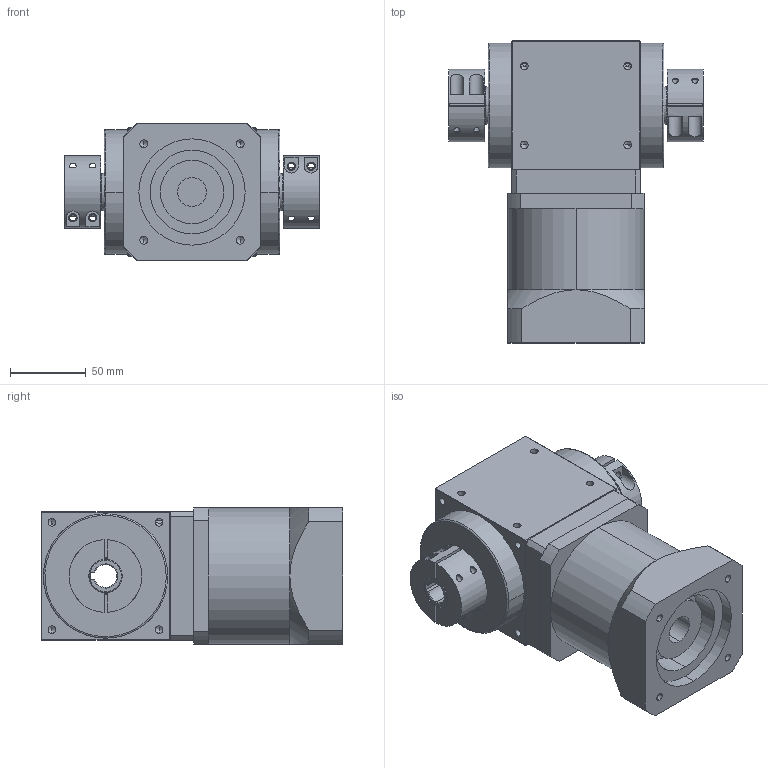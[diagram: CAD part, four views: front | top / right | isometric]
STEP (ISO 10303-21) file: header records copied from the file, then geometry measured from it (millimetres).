
FILE_DESCRIPTION (( 'STEP AP214' ), '1' );
FILE_NAME ('PAW085A-L1-2C-K(3-10) 19-70-90-M6_1.STEP', '2021-04-24T07:56:02', ( 'Microsoft' ), ( 'Microsoft China' ), 'SwSTEP 2.0', 'SolidWorks 2016', '' );
FILE_SCHEMA (( 'AUTOMOTIVE_DESIGN' ));
Length unit declared in the file: millimetre
Products named in the file (3): PAW085A-L1-2C-K(3-10) 19-70-90-M6_1; 085標杶_1; PAW085A-L2-2C-K--19-70-90-M6_1
Assembly tree (3 placements, depth 2):
  PAW085A-L1-2C-K(3-10) 19-70-90-M6_1
    PAW085A-L2-2C-K--19-70-90-M6_1
    085標杶_1  x2
Bounding box: 168 x 199 x 90 mm (x, y, z)
Volume: 1548846.1 mm3; surface area: 152844.2 mm2
Topology: 7 solids, 7 shells, 332 faces, 794 edges, 477 vertices
Faces by surface type: cylinder 139, plane 108, cone 81, bspline 4
Entity records: 11738 total; most frequent: CARTESIAN_POINT 2002, DIRECTION 1419, ORIENTED_EDGE 1280, EDGE_CURVE 640, AXIS2_PLACEMENT_3D 558, VERTEX_POINT 397, EDGE_LOOP 341, VECTOR 303
